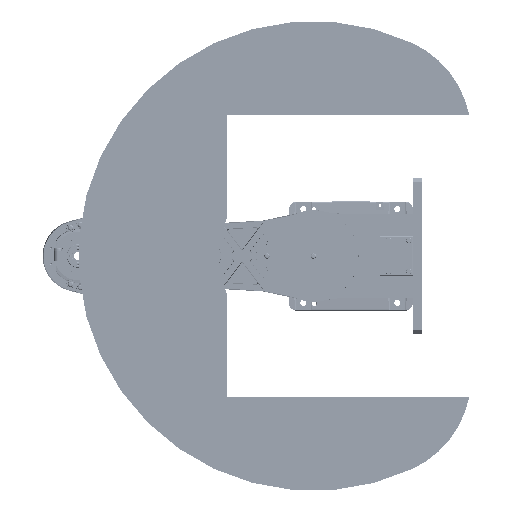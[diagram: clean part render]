
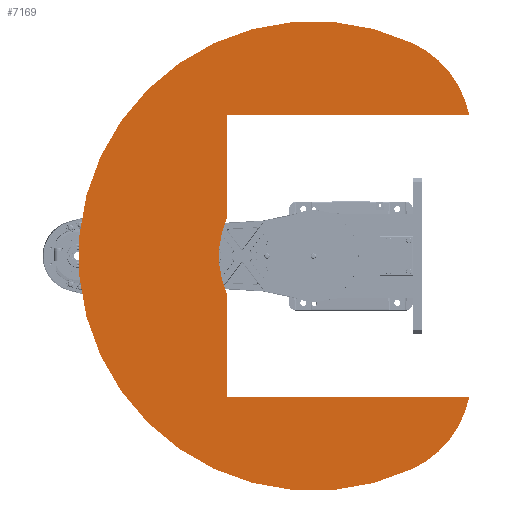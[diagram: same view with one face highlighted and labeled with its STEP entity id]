
A CAD part, front view. The second image highlights one B-rep face of the part: STEP entity #7169.
In plain terms, the highlighted planar face has unit normal (0, -1, 0).
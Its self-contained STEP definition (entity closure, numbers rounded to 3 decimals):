
#7169 = ADVANCED_FACE( '', ( #17133 ), #17134, .F. );
#17133 = FACE_OUTER_BOUND( '', #31038, .T. );
#17134 = PLANE( '', #31039 );
#31038 = EDGE_LOOP( '', ( #52906, #52907, #52908, #52909, #52910, #52911, #52912, #52913 ) );
#31039 = AXIS2_PLACEMENT_3D( '', #52914, #52915, #52916 );
#52906 = ORIENTED_EDGE( '', *, *, #72961, .T. );
#52907 = ORIENTED_EDGE( '', *, *, #77495, .F. );
#52908 = ORIENTED_EDGE( '', *, *, #74454, .F. );
#52909 = ORIENTED_EDGE( '', *, *, #79203, .F. );
#52910 = ORIENTED_EDGE( '', *, *, #79204, .T. );
#52911 = ORIENTED_EDGE( '', *, *, #79205, .T. );
#52912 = ORIENTED_EDGE( '', *, *, #79206, .T. );
#52913 = ORIENTED_EDGE( '', *, *, #79207, .T. );
#52914 = CARTESIAN_POINT( '', ( 77.036, 0., 35.923 ) );
#52915 = DIRECTION( '', ( 0., 1., 0. ) );
#52916 = DIRECTION( '', ( 0., 0., 1. ) );
#72961 = EDGE_CURVE( '', #86100, #86098, #86101, .T. );
#74454 = EDGE_CURVE( '', #88705, #88706, #88707, .T. );
#77495 = EDGE_CURVE( '', #88706, #86098, #93638, .T. );
#79203 = EDGE_CURVE( '', #96269, #88705, #96270, .T. );
#79204 = EDGE_CURVE( '', #96269, #96271, #96272, .T. );
#79205 = EDGE_CURVE( '', #96271, #96273, #96274, .T. );
#79206 = EDGE_CURVE( '', #96273, #96275, #96276, .T. );
#79207 = EDGE_CURVE( '', #96275, #86100, #96277, .T. );
#86098 = VERTEX_POINT( '', #105901 );
#86100 = VERTEX_POINT( '', #105904 );
#86101 = LINE( '', #105905, #105906 );
#88705 = VERTEX_POINT( '', #110373 );
#88706 = VERTEX_POINT( '', #110374 );
#88707 = CIRCLE( '', #110375, 300. );
#93638 = CIRCLE( '', #118498, 130. );
#96269 = VERTEX_POINT( '', #123107 );
#96270 = CIRCLE( '', #123108, 130. );
#96271 = VERTEX_POINT( '', #123109 );
#96272 = LINE( '', #123110, #123111 );
#96273 = VERTEX_POINT( '', #123112 );
#96274 = LINE( '', #123113, #123114 );
#96275 = VERTEX_POINT( '', #123115 );
#96276 = CIRCLE( '', #123116, 120.61 );
#96277 = LINE( '', #123117, #123118 );
#105901 = CARTESIAN_POINT( '', ( -180., 0., 199.233 ) );
#105904 = CARTESIAN_POINT( '', ( -180., 0., -110. ) );
#105905 = CARTESIAN_POINT( '', ( -180., 0., -110. ) );
#105906 = VECTOR( '', #135165, 1000. );
#110373 = CARTESIAN_POINT( '', ( 271.892, 0., 126.785 ) );
#110374 = CARTESIAN_POINT( '', ( -271.892, 0., 126.785 ) );
#110375 = AXIS2_PLACEMENT_3D( '', #136802, #136803, #136804 );
#118498 = AXIS2_PLACEMENT_3D( '', #140262, #140263, #140264 );
#123107 = CARTESIAN_POINT( '', ( 180., 0., 199.233 ) );
#123108 = AXIS2_PLACEMENT_3D( '', #142193, #142194, #142195 );
#123109 = CARTESIAN_POINT( '', ( 180., 0., -110. ) );
#123110 = CARTESIAN_POINT( '', ( 180., 0., 290. ) );
#123111 = VECTOR( '', #142196, 1000. );
#123112 = CARTESIAN_POINT( '', ( 49.465, 0., -110. ) );
#123113 = CARTESIAN_POINT( '', ( 180., 0., -110. ) );
#123114 = VECTOR( '', #142197, 1000. );
#123115 = CARTESIAN_POINT( '', ( -49.465, 0., -110. ) );
#123116 = AXIS2_PLACEMENT_3D( '', #142198, #142199, #142200 );
#123117 = CARTESIAN_POINT( '', ( 180., 0., -110. ) );
#123118 = VECTOR( '', #142201, 1000. );
#135165 = DIRECTION( '', ( 0., 0., 1. ) );
#136802 = CARTESIAN_POINT( '', ( 0., 0., 0. ) );
#136803 = DIRECTION( '', ( 0., 1., 0. ) );
#136804 = DIRECTION( '', ( 1., 0., 0. ) );
#140262 = CARTESIAN_POINT( '', ( -154.072, 0., 71.845 ) );
#140263 = DIRECTION( '', ( 0., 1., 0. ) );
#140264 = DIRECTION( '', ( 1., 0., 0. ) );
#142193 = CARTESIAN_POINT( '', ( 154.072, 0., 71.845 ) );
#142194 = DIRECTION( '', ( 0., 1., 0. ) );
#142195 = DIRECTION( '', ( 1., 0., 0. ) );
#142196 = DIRECTION( '', ( 0., 0., -1. ) );
#142197 = DIRECTION( '', ( -1., 0., 0. ) );
#142198 = CARTESIAN_POINT( '', ( 0., 0., 0. ) );
#142199 = DIRECTION( '', ( 0., 1., 0. ) );
#142200 = DIRECTION( '', ( 1., 0., 0. ) );
#142201 = DIRECTION( '', ( -1., 0., 0. ) );
